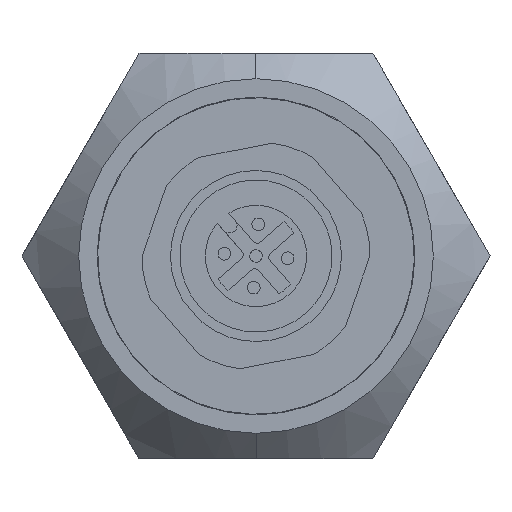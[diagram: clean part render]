
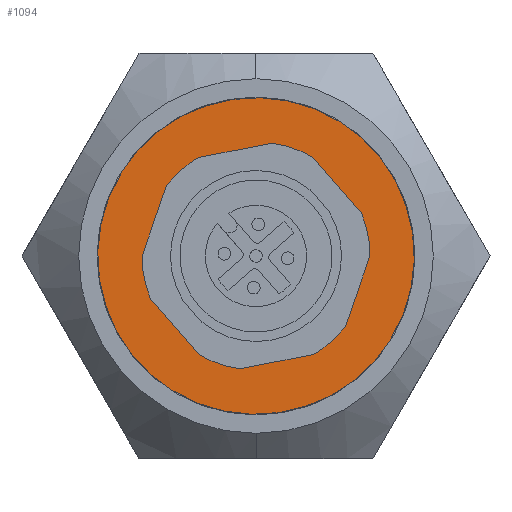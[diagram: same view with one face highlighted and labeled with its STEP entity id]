
A CAD part, front view. The second image highlights one B-rep face of the part: STEP entity #1094.
In plain terms, the highlighted planar face has unit normal (0, -1, 0).
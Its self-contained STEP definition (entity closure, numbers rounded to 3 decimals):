
#969 = EDGE_CURVE ( 'NONE', #1045, #1048, #3159, .T. ) ;
#1045 = VERTEX_POINT ( 'NONE', #3411 ) ;
#1047 = EDGE_CURVE ( 'NONE', #1048, #1045, #3409, .T. ) ;
#1048 = VERTEX_POINT ( 'NONE', #3404 ) ;
#1094 = ADVANCED_FACE ( 'NONE', ( #3496, #3495 ), #3494, .F. ) ;
#1095 = EDGE_LOOP ( 'NONE', ( #1096, #1098 ) ) ;
#1096 = ORIENTED_EDGE ( 'NONE', *, *, #1097, .F. ) ;
#1097 = EDGE_CURVE ( 'NONE', #1110, #1107, #3489, .T. ) ;
#1098 = ORIENTED_EDGE ( 'NONE', *, *, #1109, .F. ) ;
#1099 = EDGE_LOOP ( 'NONE', ( #1100, #1101 ) ) ;
#1100 = ORIENTED_EDGE ( 'NONE', *, *, #1047, .T. ) ;
#1101 = ORIENTED_EDGE ( 'NONE', *, *, #969, .T. ) ;
#1107 = VERTEX_POINT ( 'NONE', #3472 ) ;
#1109 = EDGE_CURVE ( 'NONE', #1107, #1110, #3537, .T. ) ;
#1110 = VERTEX_POINT ( 'NONE', #3532 ) ;
#3155 = DIRECTION ( 'NONE',  ( 0., 0., 1. ) ) ;
#3156 = DIRECTION ( 'NONE',  ( 0., 1., 0. ) ) ;
#3157 = CARTESIAN_POINT ( 'NONE',  ( 0., 0., 0. ) ) ;
#3158 = AXIS2_PLACEMENT_3D ( 'NONE', #3157, #3156, #3155 ) ;
#3159 = CIRCLE ( 'NONE', #3158, 8.25 ) ;
#3404 = CARTESIAN_POINT ( 'NONE',  ( 0., 0., -8.25 ) ) ;
#3405 = DIRECTION ( 'NONE',  ( 0., 0., 1. ) ) ;
#3406 = DIRECTION ( 'NONE',  ( 0., 1., 0. ) ) ;
#3407 = CARTESIAN_POINT ( 'NONE',  ( 0., 0., 0. ) ) ;
#3408 = AXIS2_PLACEMENT_3D ( 'NONE', #3407, #3406, #3405 ) ;
#3409 = CIRCLE ( 'NONE', #3408, 8.25 ) ;
#3411 = CARTESIAN_POINT ( 'NONE',  ( 0., 0., 8.25 ) ) ;
#3472 = CARTESIAN_POINT ( 'NONE',  ( 0., 0., 12.5 ) ) ;
#3484 = DIRECTION ( 'NONE',  ( 0., 0., 1. ) ) ;
#3486 = DIRECTION ( 'NONE',  ( 0., 1., 0. ) ) ;
#3487 = CARTESIAN_POINT ( 'NONE',  ( 0., 0., 0. ) ) ;
#3488 = AXIS2_PLACEMENT_3D ( 'NONE', #3487, #3486, #3484 ) ;
#3489 = CIRCLE ( 'NONE', #3488, 12.5 ) ;
#3490 = DIRECTION ( 'NONE',  ( 0., 0., 1. ) ) ;
#3491 = DIRECTION ( 'NONE',  ( 0., 1., 0. ) ) ;
#3492 = CARTESIAN_POINT ( 'NONE',  ( 0., 0., 0. ) ) ;
#3493 = AXIS2_PLACEMENT_3D ( 'NONE', #3492, #3491, #3490 ) ;
#3494 = PLANE ( 'NONE',  #3493 ) ;
#3495 = FACE_BOUND ( 'NONE', #1099, .T. ) ;
#3496 = FACE_OUTER_BOUND ( 'NONE', #1095, .T. ) ;
#3532 = CARTESIAN_POINT ( 'NONE',  ( 0., 0., -12.5 ) ) ;
#3533 = DIRECTION ( 'NONE',  ( 0., 0., 1. ) ) ;
#3534 = DIRECTION ( 'NONE',  ( 0., 1., 0. ) ) ;
#3535 = CARTESIAN_POINT ( 'NONE',  ( 0., 0., 0. ) ) ;
#3536 = AXIS2_PLACEMENT_3D ( 'NONE', #3535, #3534, #3533 ) ;
#3537 = CIRCLE ( 'NONE', #3536, 12.5 ) ;
